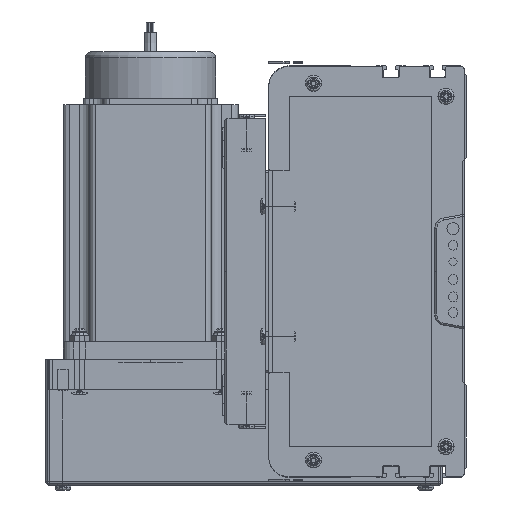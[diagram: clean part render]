
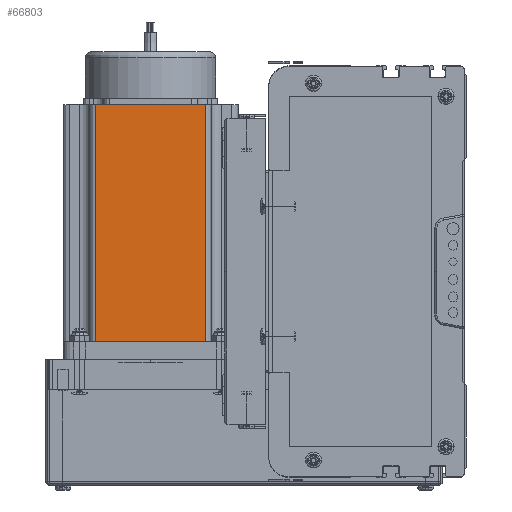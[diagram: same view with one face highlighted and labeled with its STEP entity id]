
A CAD part, left-side view. The second image highlights one B-rep face of the part: STEP entity #66803.
In plain terms, the highlighted planar face has unit normal (-1, 0, 0) as drawn and (0, -1, 0) by its records, which use the part's own axes.
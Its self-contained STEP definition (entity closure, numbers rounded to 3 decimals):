
#66570 = ORIENTED_EDGE ( 'NONE', *, *, #66572, .T. ) ;
#66572 = EDGE_CURVE ( 'NONE', #66908, #66822, #111626, .T. ) ;
#66575 = ORIENTED_EDGE ( 'NONE', *, *, #66925, .F. ) ;
#66654 = EDGE_LOOP ( 'NONE', ( #67048, #66570, #66575, #66658 ) ) ;
#66658 = ORIENTED_EDGE ( 'NONE', *, *, #66664, .T. ) ;
#66664 = EDGE_CURVE ( 'NONE', #67036, #67040, #111759, .T. ) ;
#66803 = ADVANCED_FACE ( 'NONE', ( #111670 ), #111778, .F. ) ;
#66822 = VERTEX_POINT ( 'NONE', #111580 ) ;
#66908 = VERTEX_POINT ( 'NONE', #111944 ) ;
#66925 = EDGE_CURVE ( 'NONE', #67036, #66822, #112060, .T. ) ;
#67036 = VERTEX_POINT ( 'NONE', #111940 ) ;
#67040 = VERTEX_POINT ( 'NONE', #111932 ) ;
#67041 = EDGE_CURVE ( 'NONE', #67040, #66908, #111920, .T. ) ;
#67048 = ORIENTED_EDGE ( 'NONE', *, *, #67041, .T. ) ;
#111580 = CARTESIAN_POINT ( 'NONE',  ( 69.74, 0., 116.5 ) ) ;
#111584 = DIRECTION ( 'NONE',  ( 0., 0., 1. ) ) ;
#111609 = DIRECTION ( 'NONE',  ( 0., 0., -1. ) ) ;
#111610 = VECTOR ( 'NONE', #111609, 1000. ) ;
#111623 = DIRECTION ( 'NONE',  ( 0., 0., 1. ) ) ;
#111624 = VECTOR ( 'NONE', #111623, 1000. ) ;
#111625 = CARTESIAN_POINT ( 'NONE',  ( 69.74, 0., 116.5 ) ) ;
#111626 = LINE ( 'NONE', #111625, #111624 ) ;
#111655 = CARTESIAN_POINT ( 'NONE',  ( 0., 0., 116.5 ) ) ;
#111660 = AXIS2_PLACEMENT_3D ( 'NONE', #111655, #111666, #111584 ) ;
#111666 = DIRECTION ( 'NONE',  ( 0., 1., 0. ) ) ;
#111670 = FACE_OUTER_BOUND ( 'NONE', #66654, .T. ) ;
#111758 = CARTESIAN_POINT ( 'NONE',  ( 16.16, 0., 116.5 ) ) ;
#111759 = LINE ( 'NONE', #111758, #111610 ) ;
#111778 = PLANE ( 'NONE',  #111660 ) ;
#111916 = DIRECTION ( 'NONE',  ( 1., 0., 0. ) ) ;
#111917 = VECTOR ( 'NONE', #111916, 1000. ) ;
#111919 = CARTESIAN_POINT ( 'NONE',  ( 0., 0., 0. ) ) ;
#111920 = LINE ( 'NONE', #111919, #111917 ) ;
#111932 = CARTESIAN_POINT ( 'NONE',  ( 16.16, 0., 0. ) ) ;
#111940 = CARTESIAN_POINT ( 'NONE',  ( 16.16, 0., 116.5 ) ) ;
#111944 = CARTESIAN_POINT ( 'NONE',  ( 69.74, 0., 0. ) ) ;
#112040 = DIRECTION ( 'NONE',  ( 1., 0., 0. ) ) ;
#112041 = VECTOR ( 'NONE', #112040, 1000. ) ;
#112059 = CARTESIAN_POINT ( 'NONE',  ( 0., 0., 116.5 ) ) ;
#112060 = LINE ( 'NONE', #112059, #112041 ) ;
